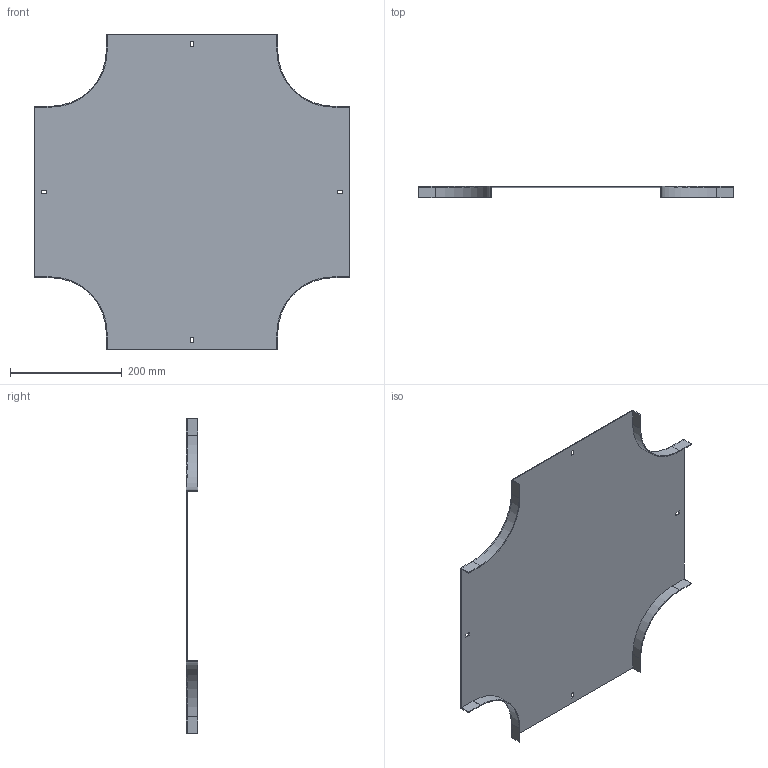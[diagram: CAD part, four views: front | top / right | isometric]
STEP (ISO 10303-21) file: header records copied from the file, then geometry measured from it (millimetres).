
FILE_DESCRIPTION (( 'STEP AP214' ), '1' );
FILE_NAME ('17G1R300.step', '2025-02-21T13:03:19', ( '' ), ( '' ), 'SwSTEP 2.0', 'SolidWorks 2023', '' );
FILE_SCHEMA (( 'AUTOMOTIVE_DESIGN' ));
Length unit declared in the file: millimetre
Products named in the file (1): 17G1R300
Bounding box: 564 x 20 x 564 mm (x, y, z)
Volume: 414177.3 mm3; surface area: 555774.7 mm2
Topology: 1 solids, 1 shells, 50 faces, 144 edges, 96 vertices
Faces by surface type: plane 42, cylinder 8
Entity records: 1663 total; most frequent: CARTESIAN_POINT 291, ORIENTED_EDGE 288, DIRECTION 262, EDGE_CURVE 144, LINE 128, VECTOR 128, VERTEX_POINT 96, AXIS2_PLACEMENT_3D 67
